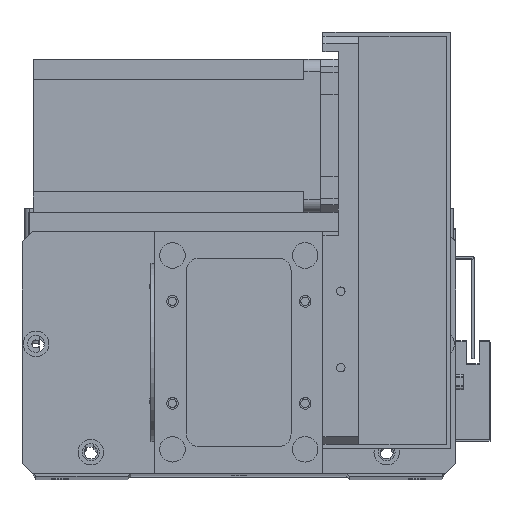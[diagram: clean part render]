
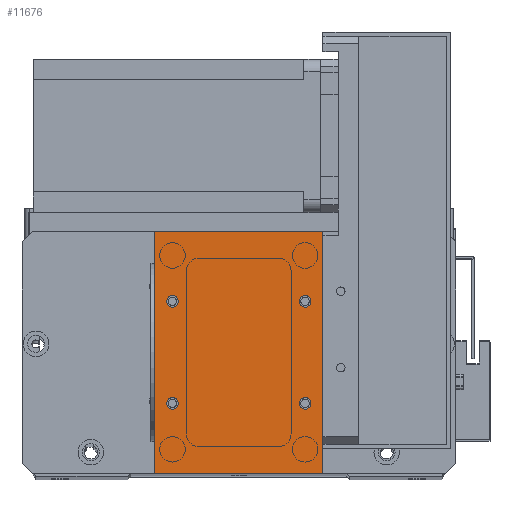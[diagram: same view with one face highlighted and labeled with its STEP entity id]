
A CAD part, top view. The second image highlights one B-rep face of the part: STEP entity #11676.
In plain terms, the highlighted planar face has unit normal (0, 0, 1).
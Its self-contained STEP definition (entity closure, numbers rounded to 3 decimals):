
#299 = VECTOR ( 'NONE', #21193, 1000. ) ;
#320 = ORIENTED_EDGE ( 'NONE', *, *, #13736, .F. ) ;
#450 = VERTEX_POINT ( 'NONE', #8447 ) ;
#495 = CARTESIAN_POINT ( 'NONE',  ( 56.75, 67.5, 2. ) ) ;
#981 = ORIENTED_EDGE ( 'NONE', *, *, #15476, .F. ) ;
#1439 = VERTEX_POINT ( 'NONE', #27509 ) ;
#1763 = CARTESIAN_POINT ( 'NONE',  ( 9.25, 67.5, 2. ) ) ;
#1911 = CARTESIAN_POINT ( 'NONE',  ( 66., 0., 2. ) ) ;
#2056 = DIRECTION ( 'NONE',  ( 1., 0., 0. ) ) ;
#2697 = VERTEX_POINT ( 'NONE', #24466 ) ;
#3096 = DIRECTION ( 'NONE',  ( 0., 0., 1. ) ) ;
#3456 = FACE_BOUND ( 'NONE', #27611, .T. ) ;
#3700 = CARTESIAN_POINT ( 'NONE',  ( 0., 0., 2. ) ) ;
#4067 = ORIENTED_EDGE ( 'NONE', *, *, #17608, .T. ) ;
#4179 = ORIENTED_EDGE ( 'NONE', *, *, #6777, .F. ) ;
#4190 = CARTESIAN_POINT ( 'NONE',  ( 59., 27.5, 2. ) ) ;
#4307 = VERTEX_POINT ( 'NONE', #24135 ) ;
#4336 = DIRECTION ( 'NONE',  ( 0., 0., 1. ) ) ;
#4562 = CARTESIAN_POINT ( 'NONE',  ( 7., 27.5, 2. ) ) ;
#5623 = AXIS2_PLACEMENT_3D ( 'NONE', #18726, #4336, #21153 ) ;
#5778 = AXIS2_PLACEMENT_3D ( 'NONE', #30889, #16472, #2056 ) ;
#6301 = VECTOR ( 'NONE', #10424, 1000. ) ;
#6606 = DIRECTION ( 'NONE',  ( 1., 0., 0. ) ) ;
#6715 = CARTESIAN_POINT ( 'NONE',  ( 7., 67.5, 2. ) ) ;
#6722 = CIRCLE ( 'NONE', #5623, 2.25 ) ;
#6727 = LINE ( 'NONE', #13957, #299 ) ;
#6777 = EDGE_CURVE ( 'NONE', #2697, #450, #7467, .T. ) ;
#7006 = DIRECTION ( 'NONE',  ( 1., 0., 0. ) ) ;
#7334 = CARTESIAN_POINT ( 'NONE',  ( 61.25, 67.5, 2. ) ) ;
#7467 = CIRCLE ( 'NONE', #25176, 2.25 ) ;
#7710 = CIRCLE ( 'NONE', #20880, 2.25 ) ;
#8036 = CARTESIAN_POINT ( 'NONE',  ( 0., 0., 2. ) ) ;
#8430 = EDGE_LOOP ( 'NONE', ( #23966, #320 ) ) ;
#8447 = CARTESIAN_POINT ( 'NONE',  ( 56.75, 27.5, 2. ) ) ;
#8861 = PLANE ( 'NONE',  #28140 ) ;
#8961 = VERTEX_POINT ( 'NONE', #3700 ) ;
#9101 = FACE_BOUND ( 'NONE', #14024, .T. ) ;
#9132 = DIRECTION ( 'NONE',  ( 1., 0., 0. ) ) ;
#9296 = CARTESIAN_POINT ( 'NONE',  ( 59., 27.5, 2. ) ) ;
#10122 = LINE ( 'NONE', #11143, #28559 ) ;
#10424 = DIRECTION ( 'NONE',  ( 0., -1., 0. ) ) ;
#10530 = CARTESIAN_POINT ( 'NONE',  ( 59., 67.5, 2. ) ) ;
#11143 = CARTESIAN_POINT ( 'NONE',  ( 0., 95., 2. ) ) ;
#11327 = CIRCLE ( 'NONE', #26090, 2.25 ) ;
#11676 = ADVANCED_FACE ( 'NONE', ( #9101, #15522, #3456, #27532, #21128 ), #8861, .F. ) ;
#11730 = DIRECTION ( 'NONE',  ( 1., 0., 0. ) ) ;
#11874 = AXIS2_PLACEMENT_3D ( 'NONE', #6715, #23524, #9132 ) ;
#11994 = VERTEX_POINT ( 'NONE', #495 ) ;
#12404 = ORIENTED_EDGE ( 'NONE', *, *, #18370, .T. ) ;
#12417 = ORIENTED_EDGE ( 'NONE', *, *, #21165, .F. ) ;
#12671 = AXIS2_PLACEMENT_3D ( 'NONE', #4190, #20989, #6606 ) ;
#12959 = DIRECTION ( 'NONE',  ( 1., 0., 0. ) ) ;
#13694 = DIRECTION ( 'NONE',  ( -1., 0., 0. ) ) ;
#13701 = ORIENTED_EDGE ( 'NONE', *, *, #25122, .F. ) ;
#13736 = EDGE_CURVE ( 'NONE', #16902, #1439, #6722, .T. ) ;
#13957 = CARTESIAN_POINT ( 'NONE',  ( 0., 0., 2. ) ) ;
#14024 = EDGE_LOOP ( 'NONE', ( #18016, #13701 ) ) ;
#14270 = AXIS2_PLACEMENT_3D ( 'NONE', #4562, #21368, #7006 ) ;
#14298 = LINE ( 'NONE', #1911, #19150 ) ;
#15476 = EDGE_CURVE ( 'NONE', #29101, #11994, #20205, .T. ) ;
#15522 = FACE_BOUND ( 'NONE', #21575, .T. ) ;
#15813 = ORIENTED_EDGE ( 'NONE', *, *, #16445, .T. ) ;
#16104 = EDGE_CURVE ( 'NONE', #1439, #16902, #30462, .T. ) ;
#16345 = DIRECTION ( 'NONE',  ( 0., 1., 0. ) ) ;
#16445 = EDGE_CURVE ( 'NONE', #30839, #24608, #10122, .T. ) ;
#16472 = DIRECTION ( 'NONE',  ( 0., 0., 1. ) ) ;
#16544 = CARTESIAN_POINT ( 'NONE',  ( 66., 95., 2. ) ) ;
#16902 = VERTEX_POINT ( 'NONE', #22904 ) ;
#17047 = EDGE_CURVE ( 'NONE', #18626, #17279, #26663, .T. ) ;
#17279 = VERTEX_POINT ( 'NONE', #21830 ) ;
#17517 = CARTESIAN_POINT ( 'NONE',  ( 7., 67.5, 2. ) ) ;
#17608 = EDGE_CURVE ( 'NONE', #8961, #4307, #6727, .T. ) ;
#18016 = ORIENTED_EDGE ( 'NONE', *, *, #17047, .F. ) ;
#18069 = EDGE_LOOP ( 'NONE', ( #12404, #4067, #27712, #15813 ) ) ;
#18302 = DIRECTION ( 'NONE',  ( -1., 0., 0. ) ) ;
#18370 = EDGE_CURVE ( 'NONE', #24608, #8961, #20595, .T. ) ;
#18411 = ORIENTED_EDGE ( 'NONE', *, *, #31072, .F. ) ;
#18626 = VERTEX_POINT ( 'NONE', #1763 ) ;
#18726 = CARTESIAN_POINT ( 'NONE',  ( 7., 27.5, 2. ) ) ;
#19150 = VECTOR ( 'NONE', #16345, 1000. ) ;
#19913 = DIRECTION ( 'NONE',  ( 1., 0., 0. ) ) ;
#20205 = CIRCLE ( 'NONE', #5778, 2.25 ) ;
#20595 = LINE ( 'NONE', #8036, #6301 ) ;
#20835 = CARTESIAN_POINT ( 'NONE',  ( 0., 0., 2. ) ) ;
#20880 = AXIS2_PLACEMENT_3D ( 'NONE', #17517, #3096, #19913 ) ;
#20989 = DIRECTION ( 'NONE',  ( 0., 0., 1. ) ) ;
#21128 = FACE_OUTER_BOUND ( 'NONE', #18069, .T. ) ;
#21153 = DIRECTION ( 'NONE',  ( 1., 0., 0. ) ) ;
#21165 = EDGE_CURVE ( 'NONE', #450, #2697, #23425, .T. ) ;
#21193 = DIRECTION ( 'NONE',  ( 1., 0., 0. ) ) ;
#21368 = DIRECTION ( 'NONE',  ( 0., 0., 1. ) ) ;
#21575 = EDGE_LOOP ( 'NONE', ( #981, #18411 ) ) ;
#21830 = CARTESIAN_POINT ( 'NONE',  ( 4.75, 67.5, 2. ) ) ;
#22904 = CARTESIAN_POINT ( 'NONE',  ( 4.75, 27.5, 2. ) ) ;
#23425 = CIRCLE ( 'NONE', #12671, 2.25 ) ;
#23524 = DIRECTION ( 'NONE',  ( 0., 0., 1. ) ) ;
#23966 = ORIENTED_EDGE ( 'NONE', *, *, #16104, .F. ) ;
#24135 = CARTESIAN_POINT ( 'NONE',  ( 66., 0., 2. ) ) ;
#24466 = CARTESIAN_POINT ( 'NONE',  ( 61.25, 27.5, 2. ) ) ;
#24608 = VERTEX_POINT ( 'NONE', #27632 ) ;
#25122 = EDGE_CURVE ( 'NONE', #17279, #18626, #7710, .T. ) ;
#25176 = AXIS2_PLACEMENT_3D ( 'NONE', #9296, #26107, #11730 ) ;
#26090 = AXIS2_PLACEMENT_3D ( 'NONE', #10530, #27347, #12959 ) ;
#26107 = DIRECTION ( 'NONE',  ( 0., 0., 1. ) ) ;
#26663 = CIRCLE ( 'NONE', #11874, 2.25 ) ;
#27347 = DIRECTION ( 'NONE',  ( 0., 0., 1. ) ) ;
#27509 = CARTESIAN_POINT ( 'NONE',  ( 9.25, 27.5, 2. ) ) ;
#27532 = FACE_BOUND ( 'NONE', #8430, .T. ) ;
#27611 = EDGE_LOOP ( 'NONE', ( #4179, #12417 ) ) ;
#27632 = CARTESIAN_POINT ( 'NONE',  ( 0., 95., 2. ) ) ;
#27712 = ORIENTED_EDGE ( 'NONE', *, *, #28948, .T. ) ;
#28109 = DIRECTION ( 'NONE',  ( 0., 0., -1. ) ) ;
#28140 = AXIS2_PLACEMENT_3D ( 'NONE', #20835, #28109, #13694 ) ;
#28559 = VECTOR ( 'NONE', #18302, 1000. ) ;
#28948 = EDGE_CURVE ( 'NONE', #4307, #30839, #14298, .T. ) ;
#29101 = VERTEX_POINT ( 'NONE', #7334 ) ;
#30462 = CIRCLE ( 'NONE', #14270, 2.25 ) ;
#30839 = VERTEX_POINT ( 'NONE', #16544 ) ;
#30889 = CARTESIAN_POINT ( 'NONE',  ( 59., 67.5, 2. ) ) ;
#31072 = EDGE_CURVE ( 'NONE', #11994, #29101, #11327, .T. ) ;
